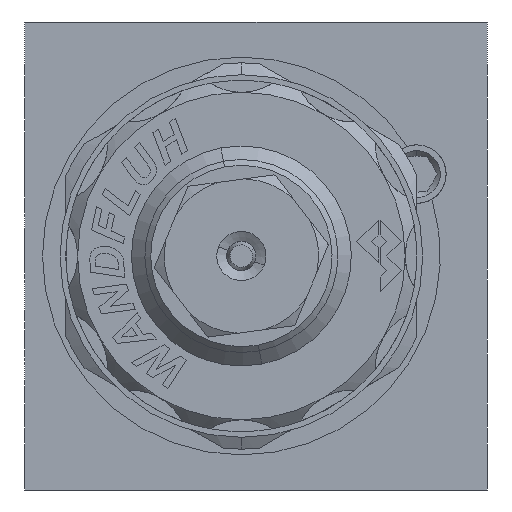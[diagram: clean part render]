
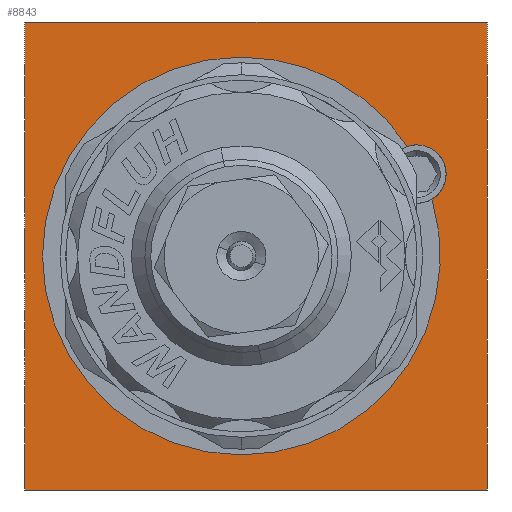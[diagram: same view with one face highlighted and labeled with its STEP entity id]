
A CAD part, left-side view. The second image highlights one B-rep face of the part: STEP entity #8843.
In plain terms, the highlighted planar face has unit normal (-1, 0, 0).
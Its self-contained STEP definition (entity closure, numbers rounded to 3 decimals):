
#761 = VECTOR ( 'NONE', #30838, 1000. ) ;
#1780 = EDGE_CURVE ( 'NONE', #11285, #12034, #2678, .T. ) ;
#2076 = AXIS2_PLACEMENT_3D ( 'NONE', #13245, #31668, #15896 ) ;
#2678 = LINE ( 'NONE', #30796, #761 ) ;
#3189 = CARTESIAN_POINT ( 'NONE',  ( 0., -14.75, 6. ) ) ;
#3813 = CARTESIAN_POINT ( 'NONE',  ( 0., 18.75, -21. ) ) ;
#4408 = ORIENTED_EDGE ( 'NONE', *, *, #13820, .F. ) ;
#4618 = ORIENTED_EDGE ( 'NONE', *, *, #34312, .T. ) ;
#5295 = CIRCLE ( 'NONE', #10795, 17. ) ;
#5810 = DIRECTION ( 'NONE',  ( 0., 0., 1. ) ) ;
#6000 = CIRCLE ( 'NONE', #22316, 17. ) ;
#6171 = EDGE_CURVE ( 'NONE', #13968, #22488, #5295, .T. ) ;
#6318 = PLANE ( 'NONE',  #15578 ) ;
#6429 = DIRECTION ( 'NONE',  ( 0., 0., 1. ) ) ;
#6912 = VECTOR ( 'NONE', #15325, 1000. ) ;
#6986 = CARTESIAN_POINT ( 'NONE',  ( 0., -20.75, -21. ) ) ;
#8185 = VERTEX_POINT ( 'NONE', #21132 ) ;
#8315 = ORIENTED_EDGE ( 'NONE', *, *, #6171, .F. ) ;
#8405 = VERTEX_POINT ( 'NONE', #33056 ) ;
#8413 = LINE ( 'NONE', #22114, #20905 ) ;
#8583 = LINE ( 'NONE', #25828, #6912 ) ;
#8843 = ADVANCED_FACE ( 'NONE', ( #19575, #26565 ), #6318, .T. ) ;
#9371 = CARTESIAN_POINT ( 'NONE',  ( 0., 0.25, -1. ) ) ;
#10137 = CIRCLE ( 'NONE', #2076, 2.5 ) ;
#10539 = DIRECTION ( 'NONE',  ( -1., 0., 0. ) ) ;
#10795 = AXIS2_PLACEMENT_3D ( 'NONE', #28998, #13228, #31658 ) ;
#11285 = VERTEX_POINT ( 'NONE', #15710 ) ;
#12008 = DIRECTION ( 'NONE',  ( 0., 0., 1. ) ) ;
#12034 = VERTEX_POINT ( 'NONE', #17370 ) ;
#12572 = LINE ( 'NONE', #33544, #19637 ) ;
#12721 = CARTESIAN_POINT ( 'NONE',  ( 0., -13.938, 8.365 ) ) ;
#12815 = VERTEX_POINT ( 'NONE', #25855 ) ;
#13228 = DIRECTION ( 'NONE',  ( -1., 0., 0. ) ) ;
#13245 = CARTESIAN_POINT ( 'NONE',  ( 0., -14.75, 6. ) ) ;
#13820 = EDGE_CURVE ( 'NONE', #13899, #12815, #33585, .T. ) ;
#13899 = VERTEX_POINT ( 'NONE', #23007 ) ;
#13968 = VERTEX_POINT ( 'NONE', #12721 ) ;
#14017 = EDGE_LOOP ( 'NONE', ( #27611, #14586, #4618, #32811 ) ) ;
#14393 = VERTEX_POINT ( 'NONE', #6986 ) ;
#14586 = ORIENTED_EDGE ( 'NONE', *, *, #29848, .F. ) ;
#15092 = DIRECTION ( 'NONE',  ( 0., 1., 0. ) ) ;
#15238 = ORIENTED_EDGE ( 'NONE', *, *, #22215, .F. ) ;
#15325 = DIRECTION ( 'NONE',  ( 0., 0., 1. ) ) ;
#15578 = AXIS2_PLACEMENT_3D ( 'NONE', #3813, #22336, #6429 ) ;
#15710 = CARTESIAN_POINT ( 'NONE',  ( 0., -20.75, 19. ) ) ;
#15896 = DIRECTION ( 'NONE',  ( 0., 0., 1. ) ) ;
#17370 = CARTESIAN_POINT ( 'NONE',  ( 0., 18.75, 19. ) ) ;
#19002 = ORIENTED_EDGE ( 'NONE', *, *, #33274, .F. ) ;
#19162 = CIRCLE ( 'NONE', #33260, 2.5 ) ;
#19575 = FACE_OUTER_BOUND ( 'NONE', #14017, .T. ) ;
#19637 = VECTOR ( 'NONE', #15092, 1000. ) ;
#20905 = VECTOR ( 'NONE', #24755, 1000. ) ;
#21132 = CARTESIAN_POINT ( 'NONE',  ( 0., 18.75, -21. ) ) ;
#21707 = DIRECTION ( 'NONE',  ( -1., 0., 0. ) ) ;
#22114 = CARTESIAN_POINT ( 'NONE',  ( 0., -20.75, -21.707 ) ) ;
#22215 = EDGE_CURVE ( 'NONE', #8405, #13968, #10137, .T. ) ;
#22316 = AXIS2_PLACEMENT_3D ( 'NONE', #26337, #10539, #28954 ) ;
#22336 = DIRECTION ( 'NONE',  ( -1., 0., 0. ) ) ;
#22488 = VERTEX_POINT ( 'NONE', #24649 ) ;
#23007 = CARTESIAN_POINT ( 'NONE',  ( 0., 0.25, -18. ) ) ;
#24649 = CARTESIAN_POINT ( 'NONE',  ( 0., 0.25, 16. ) ) ;
#24755 = DIRECTION ( 'NONE',  ( 0., 0., 1. ) ) ;
#25495 = ORIENTED_EDGE ( 'NONE', *, *, #31227, .F. ) ;
#25828 = CARTESIAN_POINT ( 'NONE',  ( 0., 18.75, -21.707 ) ) ;
#25855 = CARTESIAN_POINT ( 'NONE',  ( 0., -16.041, 3.859 ) ) ;
#26337 = CARTESIAN_POINT ( 'NONE',  ( 0., 0.25, -1. ) ) ;
#26565 = FACE_BOUND ( 'NONE', #31134, .T. ) ;
#27611 = ORIENTED_EDGE ( 'NONE', *, *, #28111, .F. ) ;
#27827 = DIRECTION ( 'NONE',  ( -1., 0., 0. ) ) ;
#28111 = EDGE_CURVE ( 'NONE', #8185, #12034, #8583, .T. ) ;
#28954 = DIRECTION ( 'NONE',  ( 0., 0., 1. ) ) ;
#28998 = CARTESIAN_POINT ( 'NONE',  ( 0., 0.25, -1. ) ) ;
#29848 = EDGE_CURVE ( 'NONE', #14393, #8185, #12572, .T. ) ;
#30796 = CARTESIAN_POINT ( 'NONE',  ( 0., -21.457, 19. ) ) ;
#30838 = DIRECTION ( 'NONE',  ( 0., 1., 0. ) ) ;
#31134 = EDGE_LOOP ( 'NONE', ( #25495, #4408, #19002, #8315, #15238 ) ) ;
#31227 = EDGE_CURVE ( 'NONE', #12815, #8405, #19162, .T. ) ;
#31658 = DIRECTION ( 'NONE',  ( 0., 0., 1. ) ) ;
#31668 = DIRECTION ( 'NONE',  ( -1., 0., 0. ) ) ;
#32811 = ORIENTED_EDGE ( 'NONE', *, *, #1780, .T. ) ;
#33056 = CARTESIAN_POINT ( 'NONE',  ( 0., -14.75, 8.5 ) ) ;
#33260 = AXIS2_PLACEMENT_3D ( 'NONE', #3189, #21707, #5810 ) ;
#33274 = EDGE_CURVE ( 'NONE', #22488, #13899, #6000, .T. ) ;
#33544 = CARTESIAN_POINT ( 'NONE',  ( 0., -21.457, -21. ) ) ;
#33585 = CIRCLE ( 'NONE', #34103, 17. ) ;
#34103 = AXIS2_PLACEMENT_3D ( 'NONE', #9371, #27827, #12008 ) ;
#34312 = EDGE_CURVE ( 'NONE', #14393, #11285, #8413, .T. ) ;
